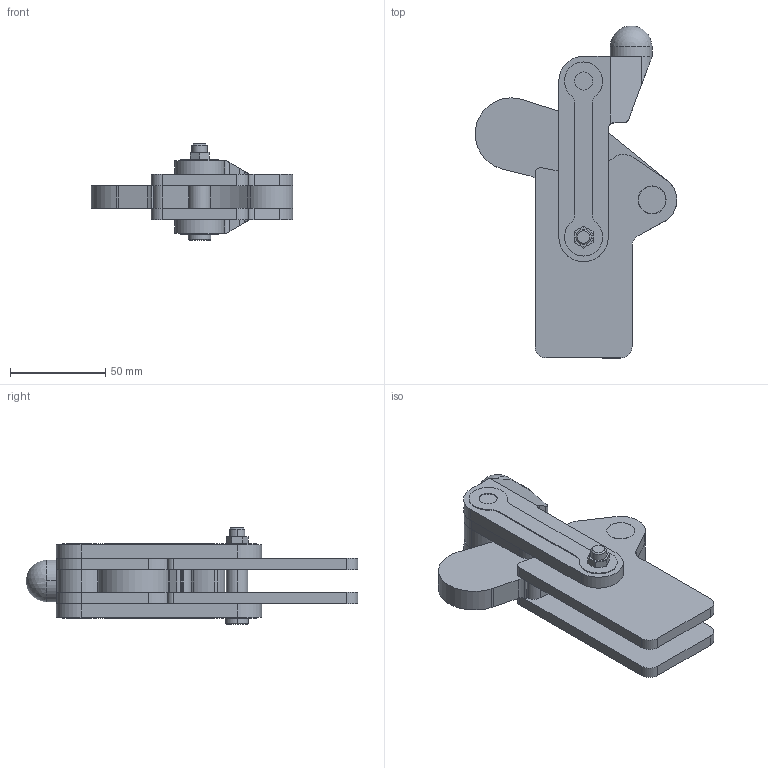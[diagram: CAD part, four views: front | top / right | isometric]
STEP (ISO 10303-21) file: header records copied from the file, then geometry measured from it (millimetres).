
FILE_DESCRIPTION( ( '' ), '1' );
FILE_NAME( '//partserver002.servicenet/client_exchange/iodir/jobs/output/wkb5782701_no5/STEP/va1200t_2_14a.stp', '2006-11-29T10:40:05', ( '' ), ( '' ), ' ', ' ', ' ' );
FILE_SCHEMA( ( 'automotive_design' ) );
Length unit declared in the file: millimetre
Products named in the file (4): 1; 2; 3; 4
Bounding box: 105.9 x 174.42 x 50.75 mm (x, y, z)
Volume: 198586 mm3; surface area: 66971.6 mm2
Topology: 4 solids, 4 shells, 182 faces, 451 edges, 293 vertices
Faces by surface type: cylinder 92, plane 73, cone 16, sphere 1
Entity records: 10706 total; most frequent: DIRECTION 1003, CARTESIAN_POINT 976, STYLED_ITEM 928, PRESENTATION_STYLE_ASSIGNMENT 928, COLOUR_RGB 928, ORIENTED_EDGE 898, EDGE_CURVE 449, CURVE_STYLE 449
